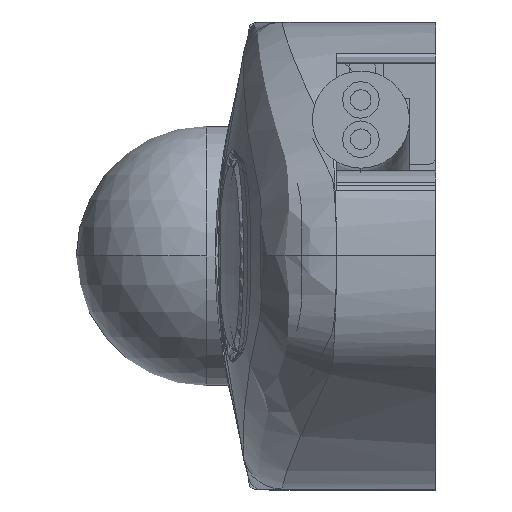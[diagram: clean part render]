
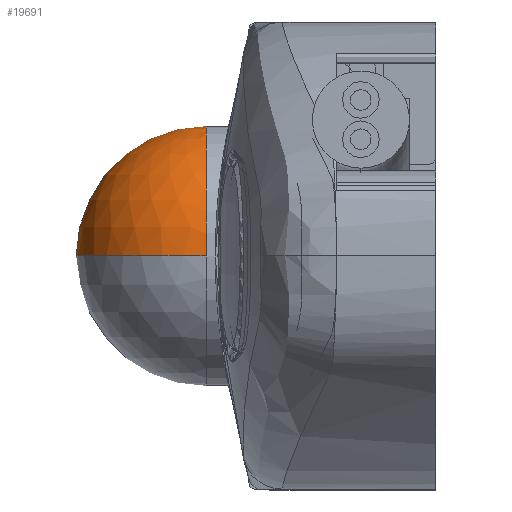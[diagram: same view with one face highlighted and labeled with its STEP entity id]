
A CAD part, left-side view. The second image highlights one B-rep face of the part: STEP entity #19691.
In plain terms, the highlighted spherical face has radius 4.95 mm.
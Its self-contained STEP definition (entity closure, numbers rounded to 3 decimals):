
#448 = CARTESIAN_POINT ( 'NONE',  ( -1.85, 11.7, 0. ) ) ;
#1934 = ORIENTED_EDGE ( 'NONE', *, *, #4653, .F. ) ;
#2523 = CARTESIAN_POINT ( 'NONE',  ( -6.8, 6.75, 0. ) ) ;
#3901 = AXIS2_PLACEMENT_3D ( 'NONE', #4788, #21884, #7244 ) ;
#4653 = EDGE_CURVE ( 'NONE', #20262, #17062, #31037, .T. ) ;
#4788 = CARTESIAN_POINT ( 'NONE',  ( -1.85, 6.75, 0. ) ) ;
#6420 = ORIENTED_EDGE ( 'NONE', *, *, #15581, .T. ) ;
#6454 = CARTESIAN_POINT ( 'NONE',  ( -1.85, 6.75, 4.95 ) ) ;
#7217 = AXIS2_PLACEMENT_3D ( 'NONE', #14380, #31571, #16841 ) ;
#7244 = DIRECTION ( 'NONE',  ( 0., 0., -1. ) ) ;
#7885 = DIRECTION ( 'NONE',  ( 0., 0., 1. ) ) ;
#8419 = EDGE_CURVE ( 'NONE', #17062, #22228, #31337, .T. ) ;
#8885 = CIRCLE ( 'NONE', #18890, 4.95 ) ;
#9541 = FACE_OUTER_BOUND ( 'NONE', #29429, .T. ) ;
#13037 = CIRCLE ( 'NONE', #20972, 4.95 ) ;
#13310 = DIRECTION ( 'NONE',  ( 0., 0., -1. ) ) ;
#14380 = CARTESIAN_POINT ( 'NONE',  ( -1.85, 6.75, 0. ) ) ;
#14417 = EDGE_CURVE ( 'NONE', #20078, #20262, #8885, .T. ) ;
#15242 = SPHERICAL_SURFACE ( 'NONE', #22047, 4.95 ) ;
#15581 = EDGE_CURVE ( 'NONE', #20078, #22228, #13037, .T. ) ;
#16841 = DIRECTION ( 'NONE',  ( 0., 0., -1. ) ) ;
#17062 = VERTEX_POINT ( 'NONE', #6454 ) ;
#18890 = AXIS2_PLACEMENT_3D ( 'NONE', #28035, #13310, #30478 ) ;
#19691 = ADVANCED_FACE ( 'NONE', ( #9541 ), #15242, .T. ) ;
#19830 = ORIENTED_EDGE ( 'NONE', *, *, #14417, .F. ) ;
#20078 = VERTEX_POINT ( 'NONE', #448 ) ;
#20262 = VERTEX_POINT ( 'NONE', #22722 ) ;
#20972 = AXIS2_PLACEMENT_3D ( 'NONE', #22537, #7885, #25018 ) ;
#21884 = DIRECTION ( 'NONE',  ( 0., -1., 0. ) ) ;
#22047 = AXIS2_PLACEMENT_3D ( 'NONE', #23940, #26380, #28810 ) ;
#22228 = VERTEX_POINT ( 'NONE', #2523 ) ;
#22537 = CARTESIAN_POINT ( 'NONE',  ( -1.85, 6.75, 0. ) ) ;
#22722 = CARTESIAN_POINT ( 'NONE',  ( 3.1, 6.75, 0. ) ) ;
#23371 = ORIENTED_EDGE ( 'NONE', *, *, #8419, .F. ) ;
#23940 = CARTESIAN_POINT ( 'NONE',  ( -1.85, 6.75, 0. ) ) ;
#25018 = DIRECTION ( 'NONE',  ( 1., 0., 0. ) ) ;
#26380 = DIRECTION ( 'NONE',  ( 0., 0., 1. ) ) ;
#28035 = CARTESIAN_POINT ( 'NONE',  ( -1.85, 6.75, 0. ) ) ;
#28810 = DIRECTION ( 'NONE',  ( 1., 0., 0. ) ) ;
#29429 = EDGE_LOOP ( 'NONE', ( #19830, #6420, #23371, #1934 ) ) ;
#30478 = DIRECTION ( 'NONE',  ( -1., 0., 0. ) ) ;
#31037 = CIRCLE ( 'NONE', #3901, 4.95 ) ;
#31337 = CIRCLE ( 'NONE', #7217, 4.95 ) ;
#31571 = DIRECTION ( 'NONE',  ( 0., -1., 0. ) ) ;
